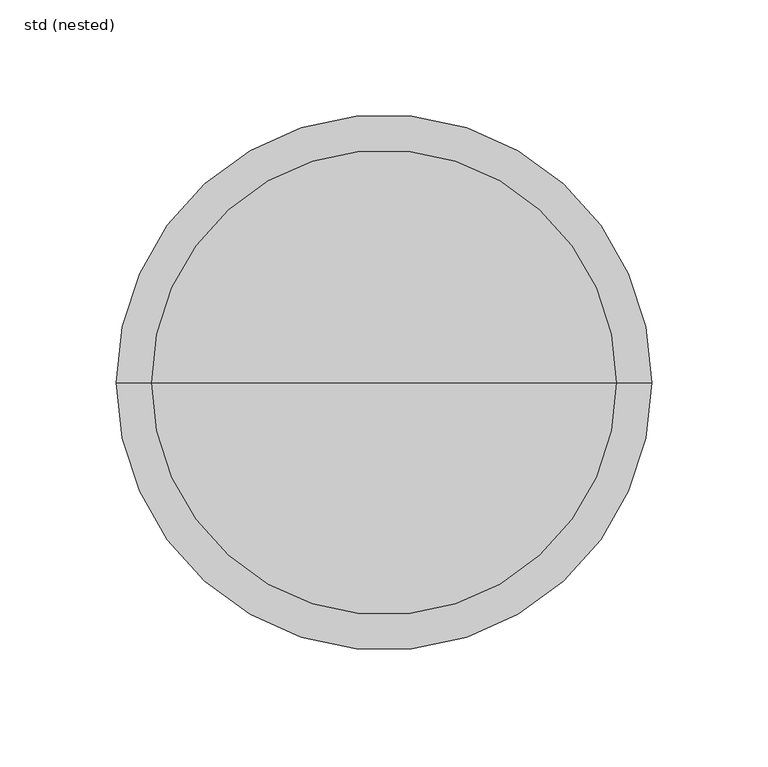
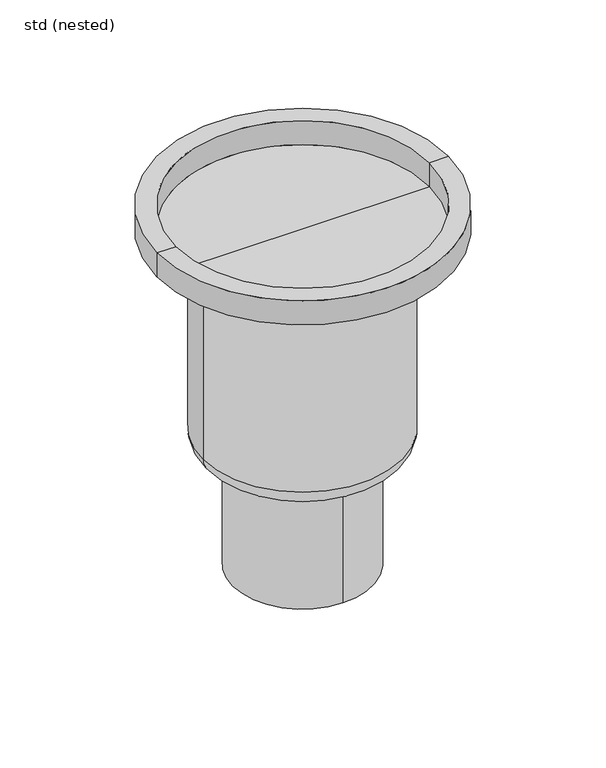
"""IFC4 building model written with IfcOpenShell, lengths in millimetres: sanitary terminal geometry, ZZZ_do not use_PF_ST_UN_fixed height round hygienic gully_ACO : std (nested)."""

from ifc_helpers import new_model, si_unit, point, frame, origin, origin_with_axes, place, context, project, spatial, polyline, circle_curve, ellipse_curve, trimmed, source, transform, mapped, element, save
from ifc_brep_helpers import plane_surface, cylinder_surface, revolved_surface, advanced_brep


def std_nested_0e59ff56(model_context):
    return source(origin(), model_context, "Body", "AdvancedBrep", [
        advanced_brep(
        [(0.0, 0.0, -20.0), (100.0, 0.0, -20.0), (-100.0, 0.0, -20.0), (-78.5, 0.0, -30.0), (78.5, 0.0, -30.0), (0.0, 0.0, -30.0), (-102.1, 0.0, -27.3), (102.1, 0.0, -27.3), (-102.1, 0.0, -20.0), (102.1, 0.0, -20.0), (-115.0, 0.0, -20.0), (115.0, 0.0, -20.0), (-115.0, 0.0, 0.0), (115.0, 0.0, 0.0), (-100.0, 0.0, 0.0), (100.0, 0.0, 0.0)],
        [
            (0, 1),
            (1, 2, circle_curve(frame((0.0, 0.0, -20.0), z_axis=(0.0, 0.0, 1.0), x_axis=(1.0, 0.0, 0.0)), 100.0)),
            (2, 0),
            (2, 1, circle_curve(frame((0.0, 0.0, -20.0), z_axis=(0.0, 0.0, 1.0), x_axis=(1.0, 0.0, 0.0)), 100.0)),
            (3, 4, circle_curve(frame((0.0, 0.0, -30.0), z_axis=(0.0, 0.0, -1.0), x_axis=(1.0, 0.0, 0.0)), 78.5)),
            (4, 5),
            (5, 3),
            (4, 3, circle_curve(frame((0.0, 0.0, -30.0), z_axis=(0.0, 0.0, -1.0), x_axis=(1.0, 0.0, 0.0)), 78.5)),
            (6, 7, circle_curve(frame((0.0, 0.0, -27.3), z_axis=(0.0, 0.0, -1.0), x_axis=(1.0, 0.0, 0.0)), 102.1)),
            (7, 4, circle_curve(frame((78.5, 0.0, 74.4907407), z_axis=(0.0, 1.0, 0.0), x_axis=(1.0, 0.0, 0.0)), 104.4907407)),
            (3, 6, circle_curve(frame((-78.5, 0.0, 74.4907407), z_axis=(0.0, 1.0, 0.0), x_axis=(-1.0, 0.0, 0.0)), 104.4907407)),
            (7, 6, circle_curve(frame((0.0, 0.0, -27.3), z_axis=(0.0, 0.0, -1.0), x_axis=(1.0, 0.0, 0.0)), 102.1)),
            (8, 9, circle_curve(frame((0.0, 0.0, -20.0), z_axis=(0.0, 0.0, -1.0), x_axis=(1.0, 0.0, 0.0)), 102.1)),
            (9, 7),
            (6, 8),
            (9, 8, circle_curve(frame((0.0, 0.0, -20.0), z_axis=(0.0, 0.0, -1.0), x_axis=(1.0, 0.0, 0.0)), 102.1)),
            (10, 11, circle_curve(frame((0.0, 0.0, -20.0), z_axis=(0.0, 0.0, -1.0), x_axis=(1.0, 0.0, 0.0)), 115.0)),
            (11, 9),
            (8, 10),
            (11, 10, circle_curve(frame((0.0, 0.0, -20.0), z_axis=(0.0, 0.0, -1.0), x_axis=(1.0, 0.0, 0.0)), 115.0)),
            (12, 13, circle_curve(frame((0.0, 0.0, 0.0), z_axis=(0.0, 0.0, -1.0), x_axis=(1.0, 0.0, 0.0)), 115.0)),
            (13, 11),
            (10, 12),
            (13, 12, circle_curve(frame((0.0, 0.0, 0.0), z_axis=(0.0, 0.0, -1.0), x_axis=(1.0, 0.0, 0.0)), 115.0)),
            (14, 15, circle_curve(frame((0.0, 0.0, 0.0), z_axis=(0.0, 0.0, -1.0), x_axis=(1.0, 0.0, 0.0)), 100.0)),
            (15, 13),
            (12, 14),
            (15, 14, circle_curve(frame((0.0, 0.0, 0.0), z_axis=(0.0, 0.0, -1.0), x_axis=(1.0, 0.0, 0.0)), 100.0)),
            (1, 15),
            (14, 2),
        ],
        [
            plane_surface(frame((0.0, 0.0, -20.0), z_axis=(0.0, 0.0, 1.0), x_axis=(1.0, 0.0, 0.0))),
            plane_surface(frame((0.0, 0.0, -30.0), z_axis=(0.0, 0.0, -1.0), x_axis=(1.0, 0.0, 0.0))),
            revolved_surface(trimmed(ellipse_curve(frame((78.5, 0.0, 74.4907407), z_axis=(0.0, -1.0, 0.0), x_axis=(1.0, 0.0, 0.0)), 104.4907407, 104.4907407), [point((78.5, 0.0, -30.0))], [point((102.1, 0.0, -27.3))], True, "CARTESIAN"), (0.0, 0.0, 5.0), (0.0, 0.0, 1.0)),
            cylinder_surface(frame((0.0, 0.0, 5.0), z_axis=(0.0, 0.0, 1.0), x_axis=(1.0, 0.0, 0.0)), 102.1),
            plane_surface(frame((0.0, 0.0, -20.0), z_axis=(0.0, 0.0, -1.0), x_axis=(1.0, 0.0, 0.0))),
            cylinder_surface(frame((0.0, 0.0, 5.0), z_axis=(0.0, 0.0, 1.0), x_axis=(1.0, 0.0, 0.0)), 115.0),
            plane_surface(origin_with_axes()),
            revolved_surface(polyline([(100.0, 0.0, 0.0), (100.0, 0.0, -20.0)]), (0.0, 0.0, 5.0), (0.0, 0.0, 1.0)),
        ],
        [
            (0, [[1, 2, 3]]),
            (0, [[-3, 4, -1]]),
            (1, [[5, 6, 7]]),
            (1, [[8, -7, -6]]),
            (2, [[9, 10, -5, 11]]),
            (2, [[12, -11, -8, -10]]),
            (3, [[13, 14, -9, 15]]),
            (3, [[16, -15, -12, -14]]),
            (4, [[17, 18, -13, 19]]),
            (4, [[20, -19, -16, -18]]),
            (5, [[21, 22, -17, 23]]),
            (5, [[24, -23, -20, -22]]),
            (6, [[25, 26, -21, 27]]),
            (6, [[28, -27, -24, -26]]),
            (7, [[-2, 29, -25, 30]]),
            (7, [[-4, -30, -28, -29]]),
        ],
    ),
        advanced_brep(
        [(78.5, 0.0, -185.0), (-78.5, 0.0, -185.0), (-78.5, 0.0, -30.0), (78.5, 0.0, -30.0), (63.5, 0.0, -200.0), (-63.5, 0.0, -200.0), (55.0, 0.0, -200.0), (0.0, 55.0, -200.0), (-55.0, 0.0, -200.0), (0.0, -55.0, -200.0), (0.0, -55.0, -299.0), (0.0, 55.0, -299.0), (0.0, 0.0, -30.0)],
        [
            (0, 1, circle_curve(frame((0.0, 0.0, -185.0), z_axis=(0.0, 0.0, 1.0), x_axis=(-1.0, 0.0, 0.0)), 78.5)),
            (1, 2),
            (2, 3, circle_curve(frame((0.0, 0.0, -30.0), z_axis=(0.0, 0.0, -1.0), x_axis=(-1.0, 0.0, 0.0)), 78.5)),
            (3, 0),
            (1, 0, circle_curve(frame((0.0, 0.0, -185.0), z_axis=(0.0, 0.0, 1.0), x_axis=(-1.0, 0.0, 0.0)), 78.5)),
            (3, 2, circle_curve(frame((0.0, 0.0, -30.0), z_axis=(0.0, 0.0, -1.0), x_axis=(-1.0, 0.0, 0.0)), 78.5)),
            (0, 4, circle_curve(frame((63.5, 0.0, -185.0), z_axis=(0.0, 1.0, 0.0), x_axis=(-1.0, 0.0, 0.0)), 15.0)),
            (4, 5, circle_curve(frame((0.0, 0.0, -200.0), z_axis=(0.0, 0.0, 1.0), x_axis=(-1.0, 0.0, 0.0)), 63.5)),
            (5, 1, circle_curve(frame((-63.5, 0.0, -185.0), z_axis=(0.0, 1.0, 0.0), x_axis=(1.0, 0.0, 0.0)), 15.0)),
            (5, 4, circle_curve(frame((0.0, 0.0, -200.0), z_axis=(0.0, 0.0, 1.0), x_axis=(-1.0, 0.0, 0.0)), 63.5)),
            (4, 6),
            (6, 7, circle_curve(frame((0.0, 0.0, -200.0), z_axis=(0.0, 0.0, 1.0), x_axis=(0.0, 1.0, 0.0)), 55.0)),
            (7, 8, circle_curve(frame((0.0, 0.0, -200.0), z_axis=(0.0, 0.0, 1.0), x_axis=(0.0, 1.0, 0.0)), 55.0)),
            (8, 5),
            (8, 9, circle_curve(frame((0.0, 0.0, -200.0), z_axis=(0.0, 0.0, 1.0), x_axis=(0.0, 1.0, 0.0)), 55.0)),
            (9, 6, circle_curve(frame((0.0, 0.0, -200.0), z_axis=(0.0, 0.0, 1.0), x_axis=(0.0, 1.0, 0.0)), 55.0)),
            (10, 11, circle_curve(frame((0.0, 0.0, -299.0), z_axis=(0.0, 0.0, -1.0), x_axis=(0.0, 1.0, 0.0)), 55.0)),
            (11, 10, circle_curve(frame((0.0, 0.0, -299.0), z_axis=(0.0, 0.0, -1.0), x_axis=(0.0, 1.0, 0.0)), 55.0)),
            (10, 9),
            (7, 11),
            (2, 12),
            (12, 3),
        ],
        [
            cylinder_surface(frame((0.0, 0.0, 60.0), z_axis=(0.0, 0.0, -1.0), x_axis=(-1.0, 0.0, 0.0)), 78.5),
            revolved_surface(trimmed(ellipse_curve(frame((-63.5, 0.0, -185.0), z_axis=(0.0, -1.0, 0.0), x_axis=(1.0, 0.0, 0.0)), 15.0, 15.0), [point((-78.5, 0.0, -185.0))], [point((-63.5, 0.0, -200.0))], True, "CARTESIAN"), (0.0, 0.0, 60.0), (0.0, 0.0, -1.0)),
            plane_surface(frame((0.0, 0.0, -200.0), z_axis=(0.0, 0.0, -1.0), x_axis=(-1.0, 0.0, 0.0))),
            plane_surface(frame((0.0, 55.0, -299.0), z_axis=(0.0, 0.0, -1.0), x_axis=(1.0, 0.0, 0.0))),
            cylinder_surface(frame((0.0, 0.0, -200.0), z_axis=(0.0, 0.0, -1.0), x_axis=(0.0, 1.0, 0.0)), 55.0),
            plane_surface(frame((0.0, 0.0, -30.0), z_axis=(0.0, 0.0, 1.0), x_axis=(-1.0, 0.0, 0.0))),
        ],
        [
            (0, [[1, 2, 3, 4]]),
            (0, [[-2, 5, -4, 6]]),
            (1, [[-1, 7, 8, 9]]),
            (1, [[-5, -9, 10, -7]]),
            (2, [[-8, 11, 12, 13, 14]]),
            (2, [[-10, -14, 15, 16, -11]]),
            (3, [[17, 18]]),
            (4, [[-17, 19, -15, -13, 20]]),
            (4, [[-18, -20, -12, -16, -19]]),
            (5, [[-3, 21, 22]]),
            (5, [[-6, -22, -21]]),
        ],
    ),
    ])


if __name__ == "__main__":
    model = new_model("IFC4")
    model_context = context("Model", 3, world=origin())
    ifc_project = project(units=[si_unit("LENGTHUNIT", "METRE", prefix="MILLI")], contexts=[model_context])
    site = spatial("IfcSite", under=ifc_project)
    building = spatial("IfcBuilding", under=site)
    placement = place(None, origin())
    std_nested_shape = std_nested_0e59ff56(model_context)
    element("IfcSanitaryTerminal", 1, ObjectType="ZZZ_do not use_PF_ST_UN_fixed height round hygienic gully_ACO : std (nested)", at=placement, inside=building, context=model_context, shape_type="MappedRepresentation", body=[
        mapped(std_nested_shape, transform((0.0, 0.0, 0.0), x_axis=(1.0, 0.0, 0.0), y_axis=(0.0, 1.0, 0.0), z_axis=(0.0, 0.0, 1.0))),
    ])
    save(model, "model.ifc")
